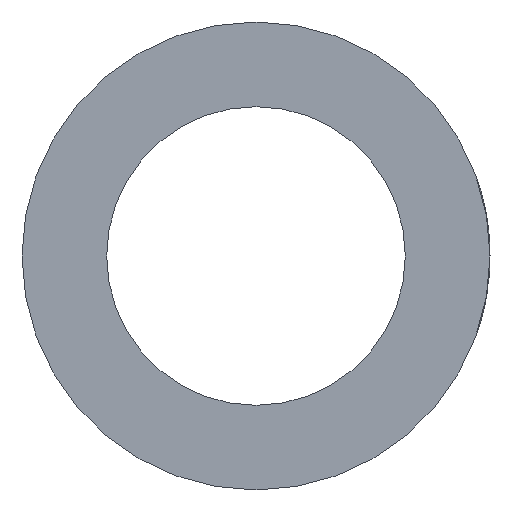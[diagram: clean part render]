
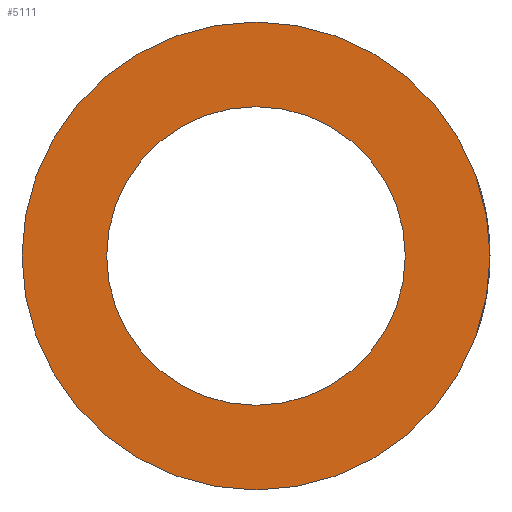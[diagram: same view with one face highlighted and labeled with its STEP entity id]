
A CAD part, left-side view. The second image highlights one B-rep face of the part: STEP entity #5111.
In plain terms, the highlighted planar face has unit normal (-1, 0, 0).
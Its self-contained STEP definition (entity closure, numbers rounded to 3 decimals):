
#117=PLANE('',#5508);
#548=CIRCLE('',#5507,23.5);
#549=CIRCLE('',#5509,15.);
#869=ORIENTED_EDGE('',*,*,#2411,.T.);
#870=ORIENTED_EDGE('',*,*,#2410,.F.);
#2410=EDGE_CURVE('',#3181,#3181,#548,.T.);
#2411=EDGE_CURVE('',#3182,#3182,#549,.T.);
#3181=VERTEX_POINT('',#8118);
#3182=VERTEX_POINT('',#8121);
#4353=EDGE_LOOP('',(#869));
#4354=EDGE_LOOP('',(#870));
#4726=FACE_BOUND('',#4353,.T.);
#4727=FACE_BOUND('',#4354,.T.);
#5111=ADVANCED_FACE('',(#4726,#4727),#117,.F.);
#5507=AXIS2_PLACEMENT_3D('',#8117,#6032,#6033);
#5508=AXIS2_PLACEMENT_3D('',#8119,#6034,#6035);
#5509=AXIS2_PLACEMENT_3D('',#8120,#6036,#6037);
#6032=DIRECTION('',(1.,0.,0.));
#6033=DIRECTION('',(0.,0.,-1.));
#6034=DIRECTION('',(1.,0.,0.));
#6035=DIRECTION('',(0.,0.,-1.));
#6036=DIRECTION('',(1.,0.,0.));
#6037=DIRECTION('',(0.,0.,-1.));
#8117=CARTESIAN_POINT('',(-34.,0.,0.));
#8118=CARTESIAN_POINT('',(-34.,0.,-23.5));
#8119=CARTESIAN_POINT('',(-34.,0.,0.));
#8120=CARTESIAN_POINT('',(-34.,0.,0.));
#8121=CARTESIAN_POINT('',(-34.,0.,-15.));
